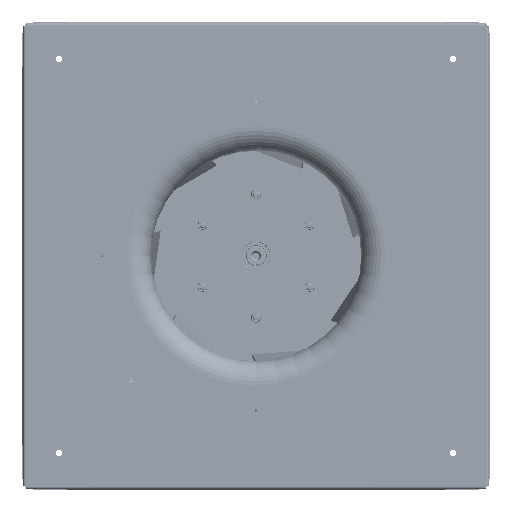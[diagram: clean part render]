
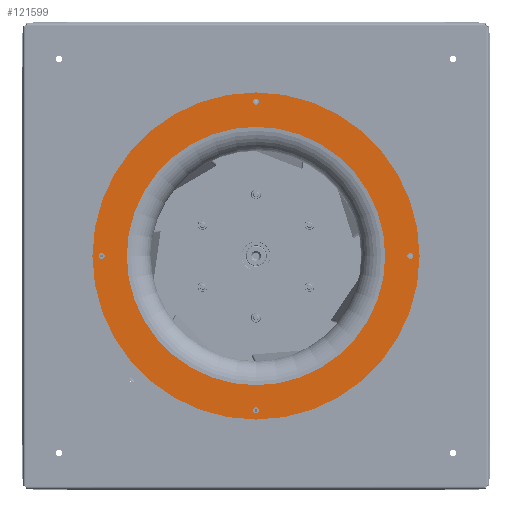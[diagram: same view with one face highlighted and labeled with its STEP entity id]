
A CAD part, front view. The second image highlights one B-rep face of the part: STEP entity #121599.
In plain terms, the highlighted planar face has unit normal (0, -1, 0) as drawn and (0, 0, 1) by its records, which use the part's own axes.
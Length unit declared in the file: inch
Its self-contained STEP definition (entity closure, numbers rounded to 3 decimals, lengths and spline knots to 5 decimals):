
#3448 = AXIS2_PLACEMENT_3D ( 'NONE', #133150, #175232, #154172 ) ;
#5324 = EDGE_LOOP ( 'NONE', ( #19443, #49315 ) ) ;
#6799 = EDGE_LOOP ( 'NONE', ( #172875, #44572 ) ) ;
#7123 = ORIENTED_EDGE ( 'NONE', *, *, #19605, .F. ) ;
#7178 = DIRECTION ( 'NONE',  ( 0., 0., 1. ) ) ;
#9844 = DIRECTION ( 'NONE',  ( 0., 0., 1. ) ) ;
#9859 = CARTESIAN_POINT ( 'NONE',  ( 0., -8.62205, 0. ) ) ;
#10758 = DIRECTION ( 'NONE',  ( 0., 1., 0. ) ) ;
#11552 = EDGE_LOOP ( 'NONE', ( #133278, #212563 ) ) ;
#11949 = DIRECTION ( 'NONE',  ( 1., 0., 0. ) ) ;
#13997 = CARTESIAN_POINT ( 'NONE',  ( -8.62205, 0., 0. ) ) ;
#15832 = AXIS2_PLACEMENT_3D ( 'NONE', #131361, #90627, #261869 ) ;
#17834 = EDGE_CURVE ( 'NONE', #49122, #106936, #66491, .T. ) ;
#19101 = VERTEX_POINT ( 'NONE', #107254 ) ;
#19443 = ORIENTED_EDGE ( 'NONE', *, *, #184760, .F. ) ;
#19605 = EDGE_CURVE ( 'NONE', #110000, #65541, #80016, .T. ) ;
#21821 = VERTEX_POINT ( 'NONE', #241545 ) ;
#31042 = CARTESIAN_POINT ( 'NONE',  ( 0., 0., 0. ) ) ;
#32323 = CARTESIAN_POINT ( 'NONE',  ( 0., 8.62205, 0. ) ) ;
#34849 = CIRCLE ( 'NONE', #48296, 9.13386 ) ;
#38791 = CIRCLE ( 'NONE', #195617, 7.21457 ) ;
#40391 = VERTEX_POINT ( 'NONE', #185464 ) ;
#42625 = EDGE_CURVE ( 'NONE', #106936, #49122, #176836, .T. ) ;
#44572 = ORIENTED_EDGE ( 'NONE', *, *, #242829, .F. ) ;
#46754 = CARTESIAN_POINT ( 'NONE',  ( -0.16732, -8.62205, 0. ) ) ;
#47281 = CARTESIAN_POINT ( 'NONE',  ( 8.62205, 0., 0. ) ) ;
#48296 = AXIS2_PLACEMENT_3D ( 'NONE', #58755, #252343, #163924 ) ;
#49122 = VERTEX_POINT ( 'NONE', #139715 ) ;
#49315 = ORIENTED_EDGE ( 'NONE', *, *, #256911, .F. ) ;
#50891 = CARTESIAN_POINT ( 'NONE',  ( 8.62205, -0.16732, 0. ) ) ;
#57333 = CARTESIAN_POINT ( 'NONE',  ( -8.62205, -0.16732, 0. ) ) ;
#58755 = CARTESIAN_POINT ( 'NONE',  ( 0., 0., 0. ) ) ;
#65541 = VERTEX_POINT ( 'NONE', #46754 ) ;
#66203 = CIRCLE ( 'NONE', #3448, 7.21457 ) ;
#66491 = CIRCLE ( 'NONE', #97879, 0.16732 ) ;
#80016 = CIRCLE ( 'NONE', #277190, 0.16732 ) ;
#83599 = CARTESIAN_POINT ( 'NONE',  ( 7.21457, 0., 0. ) ) ;
#90627 = DIRECTION ( 'NONE',  ( 0., 0., -1. ) ) ;
#90697 = DIRECTION ( 'NONE',  ( 0., 0., 1. ) ) ;
#90958 = EDGE_CURVE ( 'NONE', #40391, #266582, #38791, .T. ) ;
#92007 = FACE_OUTER_BOUND ( 'NONE', #275952, .T. ) ;
#92225 = DIRECTION ( 'NONE',  ( 1., 0., 0. ) ) ;
#92393 = VERTEX_POINT ( 'NONE', #113974 ) ;
#94416 = EDGE_CURVE ( 'NONE', #21821, #96960, #106864, .T. ) ;
#95461 = DIRECTION ( 'NONE',  ( -1., 0., 0. ) ) ;
#96960 = VERTEX_POINT ( 'NONE', #199490 ) ;
#97272 = CIRCLE ( 'NONE', #133144, 9.13386 ) ;
#97879 = AXIS2_PLACEMENT_3D ( 'NONE', #47281, #90697, #190839 ) ;
#100889 = CARTESIAN_POINT ( 'NONE',  ( 0.16732, -8.62205, 0. ) ) ;
#102462 = AXIS2_PLACEMENT_3D ( 'NONE', #137100, #219991, #92225 ) ;
#105567 = CIRCLE ( 'NONE', #262437, 0.16732 ) ;
#106864 = CIRCLE ( 'NONE', #102462, 0.16732 ) ;
#106936 = VERTEX_POINT ( 'NONE', #50891 ) ;
#107254 = CARTESIAN_POINT ( 'NONE',  ( -9.13386, 0., 0. ) ) ;
#110000 = VERTEX_POINT ( 'NONE', #100889 ) ;
#113097 = FACE_BOUND ( 'NONE', #5324, .T. ) ;
#113974 = CARTESIAN_POINT ( 'NONE',  ( 9.13386, 0., 0. ) ) ;
#121043 = ORIENTED_EDGE ( 'NONE', *, *, #143250, .T. ) ;
#121599 = ADVANCED_FACE ( 'NONE', ( #214252, #134154, #113097, #176186, #172068, #92007 ), #198654, .F. ) ;
#122659 = EDGE_CURVE ( 'NONE', #65541, #110000, #105567, .T. ) ;
#126902 = EDGE_CURVE ( 'NONE', #92393, #19101, #34849, .T. ) ;
#131361 = CARTESIAN_POINT ( 'NONE',  ( 0., 9.13386, 0. ) ) ;
#133144 = AXIS2_PLACEMENT_3D ( 'NONE', #31042, #7178, #137676 ) ;
#133150 = CARTESIAN_POINT ( 'NONE',  ( 0., 0., 0. ) ) ;
#133278 = ORIENTED_EDGE ( 'NONE', *, *, #42625, .F. ) ;
#133646 = AXIS2_PLACEMENT_3D ( 'NONE', #181961, #249337, #10758 ) ;
#134154 = FACE_BOUND ( 'NONE', #6799, .T. ) ;
#137100 = CARTESIAN_POINT ( 'NONE',  ( 0., 8.62205, 0. ) ) ;
#137676 = DIRECTION ( 'NONE',  ( 1., 0., 0. ) ) ;
#139715 = CARTESIAN_POINT ( 'NONE',  ( 8.62205, 0.16732, 0. ) ) ;
#143250 = EDGE_CURVE ( 'NONE', #19101, #92393, #97272, .T. ) ;
#145456 = ORIENTED_EDGE ( 'NONE', *, *, #90958, .F. ) ;
#149270 = ORIENTED_EDGE ( 'NONE', *, *, #126902, .T. ) ;
#154172 = DIRECTION ( 'NONE',  ( 1., 0., 0. ) ) ;
#160707 = CARTESIAN_POINT ( 'NONE',  ( 0., 0., 0. ) ) ;
#163924 = DIRECTION ( 'NONE',  ( 1., 0., 0. ) ) ;
#170864 = AXIS2_PLACEMENT_3D ( 'NONE', #13997, #270799, #228709 ) ;
#172068 = FACE_BOUND ( 'NONE', #11552, .T. ) ;
#172451 = AXIS2_PLACEMENT_3D ( 'NONE', #255827, #213686, #174288 ) ;
#172875 = ORIENTED_EDGE ( 'NONE', *, *, #94416, .F. ) ;
#174288 = DIRECTION ( 'NONE',  ( 0., -1., 0. ) ) ;
#175232 = DIRECTION ( 'NONE',  ( 0., 0., 1. ) ) ;
#176186 = FACE_BOUND ( 'NONE', #210793, .T. ) ;
#176836 = CIRCLE ( 'NONE', #172451, 0.16732 ) ;
#181734 = DIRECTION ( 'NONE',  ( 0., 0., 1. ) ) ;
#181961 = CARTESIAN_POINT ( 'NONE',  ( -8.62205, 0., 0. ) ) ;
#184760 = EDGE_CURVE ( 'NONE', #191782, #202005, #272745, .T. ) ;
#185464 = CARTESIAN_POINT ( 'NONE',  ( -7.21457, 0., 0. ) ) ;
#190839 = DIRECTION ( 'NONE',  ( 0., -1., 0. ) ) ;
#191782 = VERTEX_POINT ( 'NONE', #204612 ) ;
#195617 = AXIS2_PLACEMENT_3D ( 'NONE', #160707, #205595, #11949 ) ;
#195828 = EDGE_LOOP ( 'NONE', ( #242788, #145456 ) ) ;
#198654 = PLANE ( 'NONE',  #15832 ) ;
#199490 = CARTESIAN_POINT ( 'NONE',  ( -0.16732, 8.62205, 0. ) ) ;
#202005 = VERTEX_POINT ( 'NONE', #57333 ) ;
#202815 = CARTESIAN_POINT ( 'NONE',  ( 0., -8.62205, 0. ) ) ;
#204612 = CARTESIAN_POINT ( 'NONE',  ( -8.62205, 0.16732, 0. ) ) ;
#205595 = DIRECTION ( 'NONE',  ( 0., 0., 1. ) ) ;
#209694 = EDGE_CURVE ( 'NONE', #266582, #40391, #66203, .T. ) ;
#210793 = EDGE_LOOP ( 'NONE', ( #266711, #7123 ) ) ;
#212563 = ORIENTED_EDGE ( 'NONE', *, *, #17834, .F. ) ;
#213686 = DIRECTION ( 'NONE',  ( 0., 0., 1. ) ) ;
#214252 = FACE_BOUND ( 'NONE', #195828, .T. ) ;
#219991 = DIRECTION ( 'NONE',  ( 0., 0., 1. ) ) ;
#228709 = DIRECTION ( 'NONE',  ( 0., 1., 0. ) ) ;
#231776 = CIRCLE ( 'NONE', #240140, 0.16732 ) ;
#240140 = AXIS2_PLACEMENT_3D ( 'NONE', #32323, #9844, #247035 ) ;
#241545 = CARTESIAN_POINT ( 'NONE',  ( 0.16732, 8.62205, 0. ) ) ;
#242788 = ORIENTED_EDGE ( 'NONE', *, *, #209694, .F. ) ;
#242829 = EDGE_CURVE ( 'NONE', #96960, #21821, #231776, .T. ) ;
#247035 = DIRECTION ( 'NONE',  ( 1., 0., 0. ) ) ;
#249337 = DIRECTION ( 'NONE',  ( 0., 0., 1. ) ) ;
#251902 = DIRECTION ( 'NONE',  ( -1., 0., 0. ) ) ;
#252343 = DIRECTION ( 'NONE',  ( 0., 0., 1. ) ) ;
#255827 = CARTESIAN_POINT ( 'NONE',  ( 8.62205, 0., 0. ) ) ;
#256911 = EDGE_CURVE ( 'NONE', #202005, #191782, #269487, .T. ) ;
#261869 = DIRECTION ( 'NONE',  ( 0., -1., 0. ) ) ;
#262437 = AXIS2_PLACEMENT_3D ( 'NONE', #202815, #181734, #251902 ) ;
#266582 = VERTEX_POINT ( 'NONE', #83599 ) ;
#266711 = ORIENTED_EDGE ( 'NONE', *, *, #122659, .F. ) ;
#268114 = DIRECTION ( 'NONE',  ( 0., 0., 1. ) ) ;
#269487 = CIRCLE ( 'NONE', #170864, 0.16732 ) ;
#270799 = DIRECTION ( 'NONE',  ( 0., 0., 1. ) ) ;
#272745 = CIRCLE ( 'NONE', #133646, 0.16732 ) ;
#275952 = EDGE_LOOP ( 'NONE', ( #149270, #121043 ) ) ;
#277190 = AXIS2_PLACEMENT_3D ( 'NONE', #9859, #268114, #95461 ) ;
